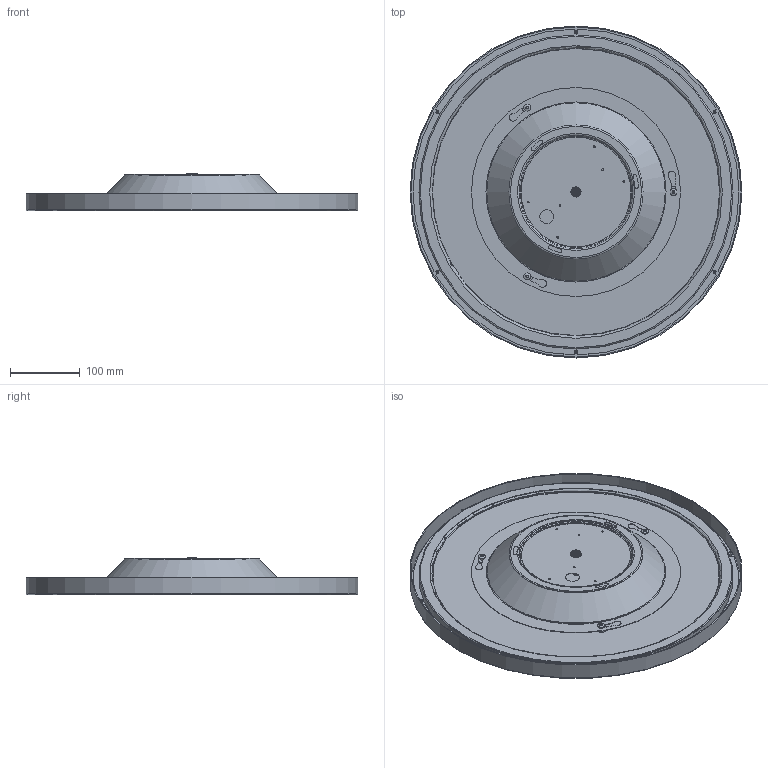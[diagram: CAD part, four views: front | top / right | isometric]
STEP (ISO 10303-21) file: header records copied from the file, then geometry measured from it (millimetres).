
FILE_DESCRIPTION(/* description */ ('Unknown'),/* implementation_level */ '2;1');
FILE_NAME(/* name */ '8606',/* time_stamp */ '2018-04-23T08:21:28+02:00',/* author */ ('Unknown'),/* organization */ ('Unknown'),/* preprocessor_version */ 'ST-DEVELOPER v16.7',/* originating_system */ 'DEX',/* authorisation */ $);
FILE_SCHEMA (('AUTOMOTIVE_DESIGN {1 0 10303 214 3 1 1}'));
Length unit declared in the file: millimetre
Products named in the file (8): 8606-8607; 152000276022; 152000277064; 155000455013; 152000280064; I1305-5; F1220-9; H1271-5
Assembly tree (9 placements, depth 2):
  8606-8607
    152000276022
    152000277064
    155000455013  x3
    152000280064
    I1305-5
    F1220-9
    H1271-5
Bounding box: 476.6 x 476.6 x 53.6 mm (x, y, z)
Volume: 363902.4 mm3; surface area: 713763.7 mm2
Topology: 9 solids, 9 shells, 276 faces, 691 edges, 454 vertices
Faces by surface type: cylinder 110, plane 109, cone 38, torus 19
Full cylindrical faces by diameter (mm): 2.5 x5, 2.6 x1, 3 x6, 3.242 x3, 3.5 x1, 4 x5, 7 x1, 9.153 x1, 10 x4, 10.1 x1, 14.5 x1, 15 x3, 20 x1, 300 x1, 448 x1, 450 x1, 474 x1, 476.6 x1
Entity records: 8705 total; most frequent: DIRECTION 1398, CARTESIAN_POINT 1338, ORIENTED_EDGE 1120, AXIS2_PLACEMENT_3D 597, EDGE_CURVE 560, VERTEX_POINT 405, EDGE_LOOP 391, FACE_BOUND 391
